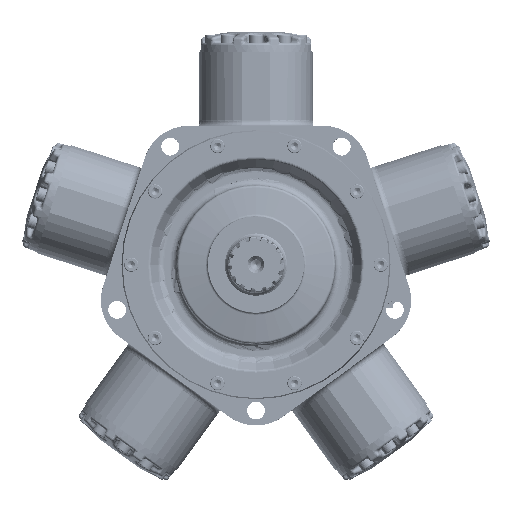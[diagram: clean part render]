
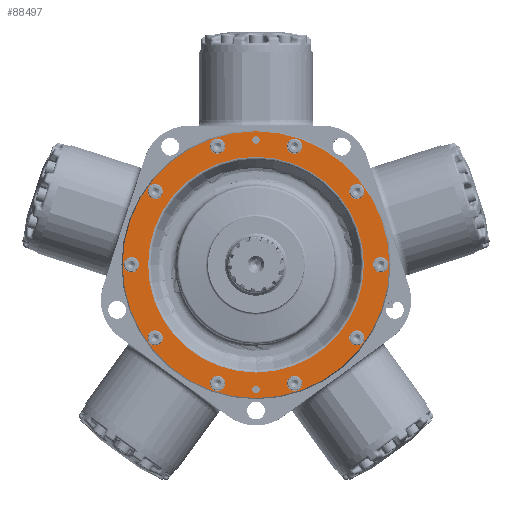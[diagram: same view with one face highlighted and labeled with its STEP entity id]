
A CAD part, top view. The second image highlights one B-rep face of the part: STEP entity #88497.
In plain terms, the highlighted planar face has unit normal (0, 0, 1).
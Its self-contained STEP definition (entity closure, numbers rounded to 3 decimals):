
#8411=FACE_BOUND('',#28168,.T.);
#8412=FACE_BOUND('',#28169,.T.);
#8413=FACE_BOUND('',#28170,.T.);
#8414=FACE_BOUND('',#28171,.T.);
#8415=FACE_BOUND('',#28172,.T.);
#8416=FACE_BOUND('',#28173,.T.);
#8417=FACE_BOUND('',#28174,.T.);
#8418=FACE_BOUND('',#28175,.T.);
#8419=FACE_BOUND('',#28176,.T.);
#8420=FACE_BOUND('',#28177,.T.);
#8421=FACE_BOUND('',#28178,.T.);
#8422=FACE_BOUND('',#28179,.T.);
#8423=FACE_BOUND('',#28180,.T.);
#17843=PLANE('',#95641);
#22630=FACE_OUTER_BOUND('',#28167,.T.);
#28167=EDGE_LOOP('',(#74656));
#28168=EDGE_LOOP('',(#74657));
#28169=EDGE_LOOP('',(#74658));
#28170=EDGE_LOOP('',(#74659));
#28171=EDGE_LOOP('',(#74660));
#28172=EDGE_LOOP('',(#74661));
#28173=EDGE_LOOP('',(#74662));
#28174=EDGE_LOOP('',(#74663));
#28175=EDGE_LOOP('',(#74664));
#28176=EDGE_LOOP('',(#74665));
#28177=EDGE_LOOP('',(#74666));
#28178=EDGE_LOOP('',(#74667));
#28179=EDGE_LOOP('',(#74668));
#28180=EDGE_LOOP('',(#74669));
#31888=CIRCLE('',#95452,120.896);
#31957=CIRCLE('',#95642,149.491);
#31958=CIRCLE('',#95643,4.188);
#31959=CIRCLE('',#95644,4.188);
#31960=CIRCLE('',#95645,8.5);
#31961=CIRCLE('',#95646,8.5);
#31962=CIRCLE('',#95647,8.5);
#31963=CIRCLE('',#95648,8.5);
#31964=CIRCLE('',#95649,8.5);
#31965=CIRCLE('',#95650,8.5);
#31966=CIRCLE('',#95651,8.5);
#31967=CIRCLE('',#95652,8.5);
#31968=CIRCLE('',#95653,8.5);
#31969=CIRCLE('',#95654,8.5);
#38706=VERTEX_POINT('',#206603);
#39158=VERTEX_POINT('',#210045);
#39159=VERTEX_POINT('',#210047);
#39160=VERTEX_POINT('',#210049);
#39161=VERTEX_POINT('',#210051);
#39162=VERTEX_POINT('',#210053);
#39163=VERTEX_POINT('',#210055);
#39164=VERTEX_POINT('',#210057);
#39165=VERTEX_POINT('',#210059);
#39166=VERTEX_POINT('',#210061);
#39167=VERTEX_POINT('',#210063);
#39168=VERTEX_POINT('',#210065);
#39169=VERTEX_POINT('',#210067);
#39170=VERTEX_POINT('',#210069);
#50442=EDGE_CURVE('',#38706,#38706,#31888,.T.);
#51119=EDGE_CURVE('',#39158,#39158,#31957,.T.);
#51120=EDGE_CURVE('',#39159,#39159,#31958,.T.);
#51121=EDGE_CURVE('',#39160,#39160,#31959,.T.);
#51122=EDGE_CURVE('',#39161,#39161,#31960,.T.);
#51123=EDGE_CURVE('',#39162,#39162,#31961,.T.);
#51124=EDGE_CURVE('',#39163,#39163,#31962,.T.);
#51125=EDGE_CURVE('',#39164,#39164,#31963,.T.);
#51126=EDGE_CURVE('',#39165,#39165,#31964,.T.);
#51127=EDGE_CURVE('',#39166,#39166,#31965,.T.);
#51128=EDGE_CURVE('',#39167,#39167,#31966,.T.);
#51129=EDGE_CURVE('',#39168,#39168,#31967,.T.);
#51130=EDGE_CURVE('',#39169,#39169,#31968,.T.);
#51131=EDGE_CURVE('',#39170,#39170,#31969,.T.);
#74656=ORIENTED_EDGE('',*,*,#51119,.F.);
#74657=ORIENTED_EDGE('',*,*,#51120,.T.);
#74658=ORIENTED_EDGE('',*,*,#51121,.T.);
#74659=ORIENTED_EDGE('',*,*,#51122,.T.);
#74660=ORIENTED_EDGE('',*,*,#51123,.T.);
#74661=ORIENTED_EDGE('',*,*,#51124,.T.);
#74662=ORIENTED_EDGE('',*,*,#51125,.T.);
#74663=ORIENTED_EDGE('',*,*,#51126,.T.);
#74664=ORIENTED_EDGE('',*,*,#51127,.T.);
#74665=ORIENTED_EDGE('',*,*,#51128,.T.);
#74666=ORIENTED_EDGE('',*,*,#51129,.T.);
#74667=ORIENTED_EDGE('',*,*,#51130,.T.);
#74668=ORIENTED_EDGE('',*,*,#51131,.T.);
#74669=ORIENTED_EDGE('',*,*,#50442,.T.);
#88497=ADVANCED_FACE('',(#22630,#8411,#8412,#8413,#8414,#8415,#8416,#8417,
#8418,#8419,#8420,#8421,#8422,#8423),#17843,.T.);
#95452=AXIS2_PLACEMENT_3D('',#206604,#112710,#112711);
#95641=AXIS2_PLACEMENT_3D('',#210044,#113373,#113374);
#95642=AXIS2_PLACEMENT_3D('',#210046,#113375,#113376);
#95643=AXIS2_PLACEMENT_3D('',#210048,#113377,#113378);
#95644=AXIS2_PLACEMENT_3D('',#210050,#113379,#113380);
#95645=AXIS2_PLACEMENT_3D('',#210052,#113381,#113382);
#95646=AXIS2_PLACEMENT_3D('',#210054,#113383,#113384);
#95647=AXIS2_PLACEMENT_3D('',#210056,#113385,#113386);
#95648=AXIS2_PLACEMENT_3D('',#210058,#113387,#113388);
#95649=AXIS2_PLACEMENT_3D('',#210060,#113389,#113390);
#95650=AXIS2_PLACEMENT_3D('',#210062,#113391,#113392);
#95651=AXIS2_PLACEMENT_3D('',#210064,#113393,#113394);
#95652=AXIS2_PLACEMENT_3D('',#210066,#113395,#113396);
#95653=AXIS2_PLACEMENT_3D('',#210068,#113397,#113398);
#95654=AXIS2_PLACEMENT_3D('',#210070,#113399,#113400);
#112710=DIRECTION('center_axis',(0.,0.,
-1.));
#112711=DIRECTION('ref_axis',(0.,-1.,0.));
#113373=DIRECTION('center_axis',(0.,0.,
1.));
#113374=DIRECTION('ref_axis',(-1.,0.,0.));
#113375=DIRECTION('center_axis',(0.,0.,
-1.));
#113376=DIRECTION('ref_axis',(0.,1.,0.));
#113377=DIRECTION('center_axis',(0.,0.,
-1.));
#113378=DIRECTION('ref_axis',(-1.,0.,0.));
#113379=DIRECTION('center_axis',(0.,0.,
-1.));
#113380=DIRECTION('ref_axis',(-1.,0.,0.));
#113381=DIRECTION('center_axis',(0.,0.,
-1.));
#113382=DIRECTION('ref_axis',(0.809,-0.588,0.));
#113383=DIRECTION('center_axis',(0.,0.,
-1.));
#113384=DIRECTION('ref_axis',(0.309,-0.951,0.));
#113385=DIRECTION('center_axis',(0.,0.,
-1.));
#113386=DIRECTION('ref_axis',(-0.309,-0.951,0.));
#113387=DIRECTION('center_axis',(0.,0.,
-1.));
#113388=DIRECTION('ref_axis',(-0.809,-0.588,0.));
#113389=DIRECTION('center_axis',(0.,0.,
-1.));
#113390=DIRECTION('ref_axis',(-1.,0.,0.));
#113391=DIRECTION('center_axis',(0.,0.,
-1.));
#113392=DIRECTION('ref_axis',(-0.809,0.588,0.));
#113393=DIRECTION('center_axis',(0.,0.,
-1.));
#113394=DIRECTION('ref_axis',(-0.309,0.951,0.));
#113395=DIRECTION('center_axis',(0.,0.,
-1.));
#113396=DIRECTION('ref_axis',(0.309,0.951,0.));
#113397=DIRECTION('center_axis',(0.,0.,
-1.));
#113398=DIRECTION('ref_axis',(0.809,0.588,0.));
#113399=DIRECTION('center_axis',(0.,0.,
-1.));
#113400=DIRECTION('ref_axis',(1.,0.,0.));
#206603=CARTESIAN_POINT('',(-120.896,0.,85.078));
#206604=CARTESIAN_POINT('Origin',(0.,0.,
85.078));
#210044=CARTESIAN_POINT('Origin',(0.,-135.854,
85.078));
#210045=CARTESIAN_POINT('',(0.,-149.491,85.078));
#210046=CARTESIAN_POINT('Origin',(0.,0.,
85.078));
#210047=CARTESIAN_POINT('',(4.188,-139.7,85.078));
#210048=CARTESIAN_POINT('Origin',(0.,-139.7,85.078));
#210049=CARTESIAN_POINT('',(4.188,139.7,85.078));
#210050=CARTESIAN_POINT('Origin',(0.,139.7,85.078));
#210051=CARTESIAN_POINT('',(-119.896,87.11,85.078));
#210052=CARTESIAN_POINT('Origin',(-113.02,82.114,85.078));
#210053=CARTESIAN_POINT('',(-45.796,140.947,85.078));
#210054=CARTESIAN_POINT('Origin',(-43.17,132.863,85.078));
#210055=CARTESIAN_POINT('',(45.796,140.947,85.078));
#210056=CARTESIAN_POINT('Origin',(43.17,132.863,85.078));
#210057=CARTESIAN_POINT('',(119.896,87.11,85.078));
#210058=CARTESIAN_POINT('Origin',(113.02,82.114,85.078));
#210059=CARTESIAN_POINT('',(148.2,0.,85.078));
#210060=CARTESIAN_POINT('Origin',(139.7,0.,85.078));
#210061=CARTESIAN_POINT('',(119.896,-87.11,85.078));
#210062=CARTESIAN_POINT('Origin',(113.02,-82.114,85.078));
#210063=CARTESIAN_POINT('',(45.796,-140.947,85.078));
#210064=CARTESIAN_POINT('Origin',(43.17,-132.863,85.078));
#210065=CARTESIAN_POINT('',(-45.796,-140.947,85.078));
#210066=CARTESIAN_POINT('Origin',(-43.17,-132.863,85.078));
#210067=CARTESIAN_POINT('',(-119.896,-87.11,85.078));
#210068=CARTESIAN_POINT('Origin',(-113.02,-82.114,85.078));
#210069=CARTESIAN_POINT('',(-148.2,0.,85.078));
#210070=CARTESIAN_POINT('Origin',(-139.7,0.,85.078));
